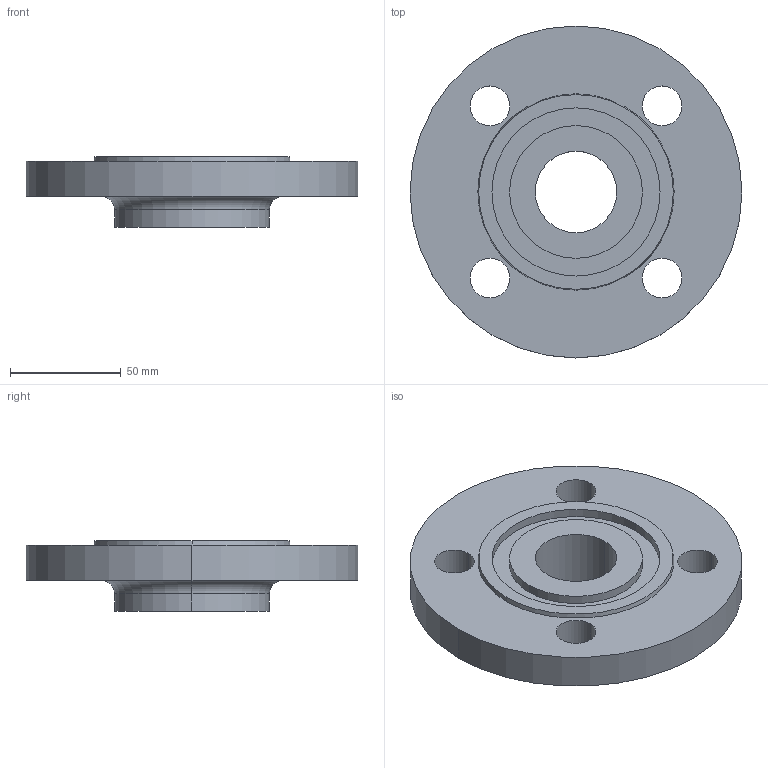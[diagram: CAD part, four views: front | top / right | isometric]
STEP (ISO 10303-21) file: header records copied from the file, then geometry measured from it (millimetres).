
FILE_DESCRIPTION (( 'STEP AP214' ), '1' );
FILE_NAME ('PN40 DN40 Type 13 - Type D Face.STEP', '2018-12-30T04:18:52', ( '' ), ( '' ), 'SwSTEP 2.0', 'SolidWorks 2019', '' );
FILE_SCHEMA (( 'AUTOMOTIVE_DESIGN' ));
Length unit declared in the file: millimetre
Products named in the file (1): PN40 DN40 Type 13 - Type D Face
Bounding box: 150 x 150 x 32 mm (x, y, z)
Volume: 293578.5 mm3; surface area: 50742.4 mm2
Topology: 1 solids, 1 shells, 28 faces, 64 edges, 42 vertices
Faces by surface type: cylinder 18, plane 6, torus 2, cone 2
Entity records: 870 total; most frequent: DIRECTION 166, CARTESIAN_POINT 135, ORIENTED_EDGE 128, AXIS2_PLACEMENT_3D 73, EDGE_CURVE 64, CIRCLE 44, VERTEX_POINT 42, EDGE_LOOP 42
